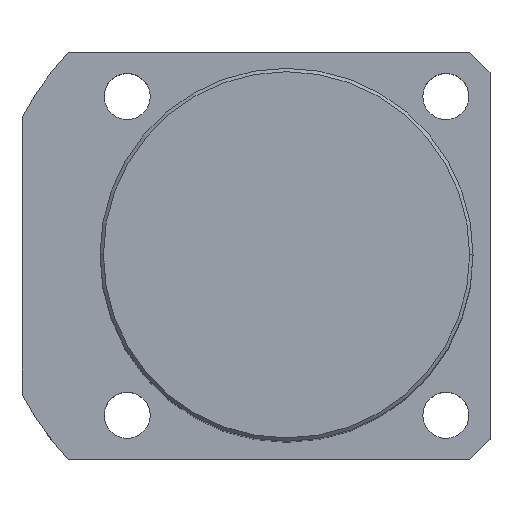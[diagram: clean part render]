
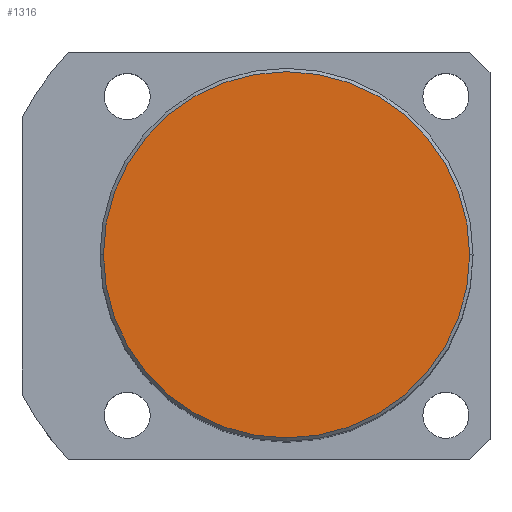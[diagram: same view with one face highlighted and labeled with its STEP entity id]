
A CAD part, top view. The second image highlights one B-rep face of the part: STEP entity #1316.
In plain terms, the highlighted planar face has unit normal (0, 0, 1).
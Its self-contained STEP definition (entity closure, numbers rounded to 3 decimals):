
#22 = AXIS2_PLACEMENT_3D ( 'NONE', #509, #800, #1776 ) ;
#39 = AXIS2_PLACEMENT_3D ( 'NONE', #377, #816, #1092 ) ;
#117 = CARTESIAN_POINT ( 'NONE',  ( 27., 0., 100. ) ) ;
#218 = FACE_OUTER_BOUND ( 'NONE', #1195, .T. ) ;
#236 = ORIENTED_EDGE ( 'NONE', *, *, #848, .T. ) ;
#377 = CARTESIAN_POINT ( 'NONE',  ( 0., 0., 100. ) ) ;
#509 = CARTESIAN_POINT ( 'NONE',  ( 0., 0., 100. ) ) ;
#534 = EDGE_CURVE ( 'NONE', #1512, #757, #1436, .T. ) ;
#573 = AXIS2_PLACEMENT_3D ( 'NONE', #892, #1027, #876 ) ;
#757 = VERTEX_POINT ( 'NONE', #1401 ) ;
#800 = DIRECTION ( 'NONE',  ( 0., 0., 1. ) ) ;
#816 = DIRECTION ( 'NONE',  ( 0., 0., 1. ) ) ;
#848 = EDGE_CURVE ( 'NONE', #757, #1512, #1664, .T. ) ;
#876 = DIRECTION ( 'NONE',  ( 1., 0., 0. ) ) ;
#892 = CARTESIAN_POINT ( 'NONE',  ( 0., 0., 100. ) ) ;
#920 = PLANE ( 'NONE',  #22 ) ;
#1009 = ORIENTED_EDGE ( 'NONE', *, *, #534, .T. ) ;
#1027 = DIRECTION ( 'NONE',  ( 0., 0., 1. ) ) ;
#1092 = DIRECTION ( 'NONE',  ( 1., 0., 0. ) ) ;
#1195 = EDGE_LOOP ( 'NONE', ( #236, #1009 ) ) ;
#1316 = ADVANCED_FACE ( 'NONE', ( #218 ), #920, .T. ) ;
#1401 = CARTESIAN_POINT ( 'NONE',  ( -27., 0., 100. ) ) ;
#1436 = CIRCLE ( 'NONE', #39, 27. ) ;
#1512 = VERTEX_POINT ( 'NONE', #117 ) ;
#1664 = CIRCLE ( 'NONE', #573, 27. ) ;
#1776 = DIRECTION ( 'NONE',  ( 1., 0., 0. ) ) ;
